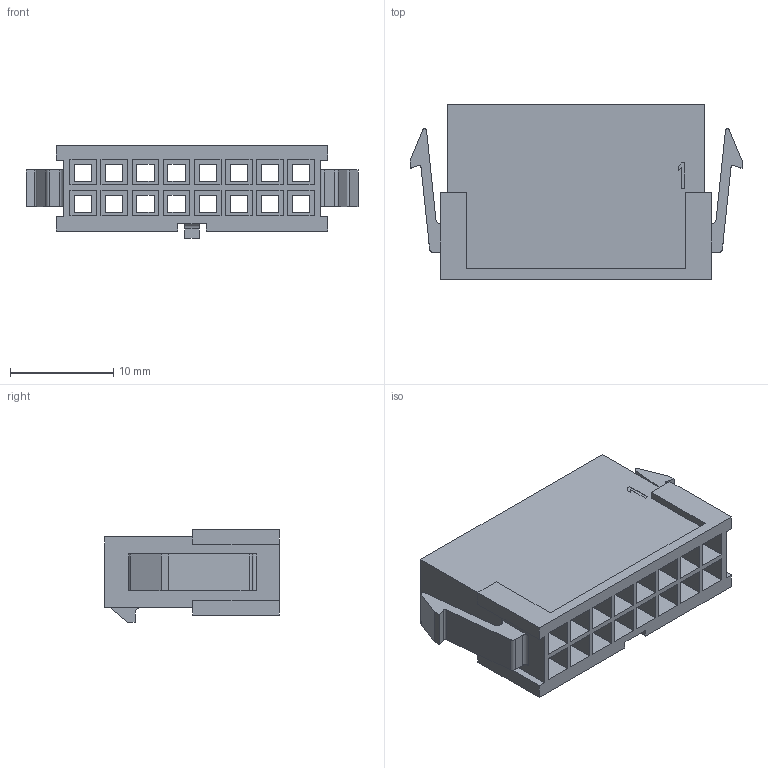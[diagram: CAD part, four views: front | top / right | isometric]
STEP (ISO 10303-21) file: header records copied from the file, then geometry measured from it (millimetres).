
FILE_DESCRIPTION((''),'2;1');
FILE_NAME('430201600','2020-04-30T',('gga'),(''),'PRO/ENGINEER BY PARAMETRIC TECHNOLOGY CORPORATION, 2016010','PRO/ENGINEER BY PARAMETRIC TECHNOLOGY CORPORATION, 2016010','');
FILE_SCHEMA(('CONFIG_CONTROL_DESIGN'));
Length unit declared in the file: millimetre
Products named in the file (1): 430201600
Bounding box: 32.08 x 16.89 x 8.95 mm (x, y, z)
Volume: 1612.9 mm3; surface area: 4188.3 mm2
Topology: 1 solids, 1 shells, 309 faces, 813 edges, 542 vertices
Faces by surface type: plane 298, cylinder 11
Entity records: 9455 total; most frequent: CARTESIAN_POINT 1665, ORIENTED_EDGE 1626, DIRECTION 1455, EDGE_CURVE 813, VECTOR 791, LINE 791, VERTEX_POINT 542, EDGE_LOOP 377
